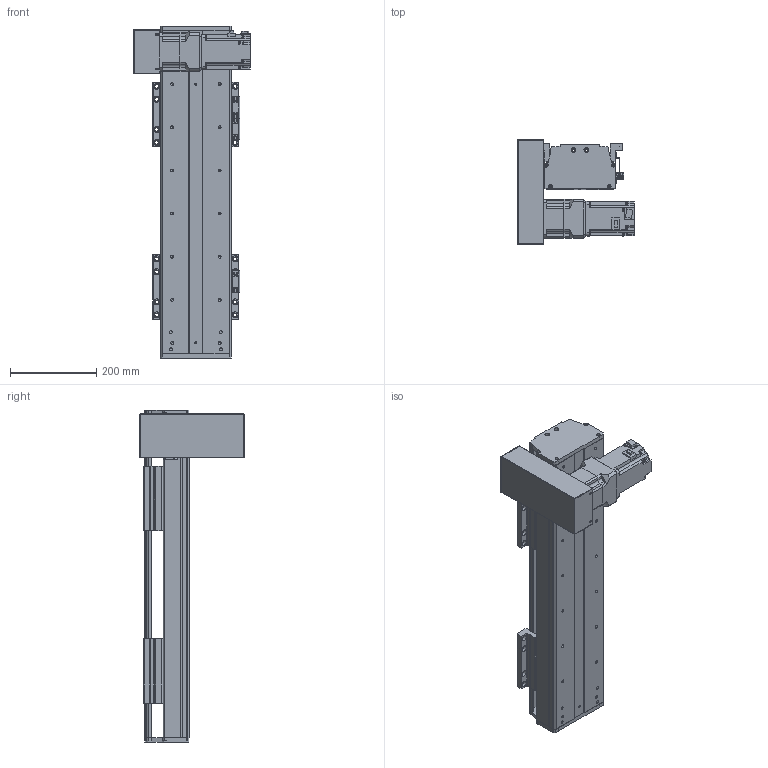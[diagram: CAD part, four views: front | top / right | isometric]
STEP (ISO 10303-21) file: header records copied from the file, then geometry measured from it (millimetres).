
FILE_DESCRIPTION(/* description */ (''),/* implementation_level */ '2;1');
FILE_NAME(/* name */ 'C:\Users\PC\Desktop\3D도면\STEP\DSB165-DL7G-W0400-R.stp',/* time_stamp */ '2018-06-25T15:42:55+09:00',/* author */ ('PC'),/* organization */ (''),/* preprocessor_version */ 'ST-DEVELOPER v16.5',/* originating_system */ 'Autodesk Inventor 2017',/* authorisation */ '');
FILE_SCHEMA (('AUTOMOTIVE_DESIGN { 1 0 10303 214 3 1 1 }'));
Length unit declared in the file: millimetre
Products named in the file (12): DSB165-L; DSR165-BASE_S; hg-kr73_; ab0901-p0401300102; 11-DBS165 BELT COVER; DBS165-COVER; DBS165-COVER_1; DBS165-UP COVER; DBS165-TABLE(MSA20S); DSR126-SENSOR DOG; SENSOR BRACKET(EE-SX674A); pm-y65_step
Assembly tree (16 placements, depth 2):
  DSB165-L
    DSR165-BASE_S
    hg-kr73_
    ab0901-p0401300102
    11-DBS165 BELT COVER
    DBS165-COVER
    DBS165-COVER_1
    DBS165-UP COVER
    DBS165-TABLE(MSA20S)  x2
    DSR126-SENSOR DOG
    pm-y65_step  x3
    SENSOR BRACKET(EE-SX674A)  x3
Bounding box: 270 x 242 x 770 mm (x, y, z)
Volume: 6126399.8 mm3; surface area: 1402159 mm2
Topology: 17 solids, 22 shells, 1643 faces, 4417 edges, 2918 vertices
Faces by surface type: plane 926, cylinder 607, cone 98, sphere 8, torus 4
Full cylindrical faces by diameter (mm): 2.459 x20, 3.5 x6, 4.134 x38, 4.5 x18, 5 x27, 5.5 x36, 5.9 x4, 6 x8, 6.6 x14, 6.647 x30, 6.8 x1, 7 x4, 7.6 x4, 8 x1, 8.4 x1, 8.5 x24, 8.7 x1, 9.5 x32, 11 x6, 14 x16, 19 x1, 22 x1, 24 x1, 25 x1, 28 x1, 67 x1, 70 x2, 80 x1
Entity records: 34989 total; most frequent: DIRECTION 6172, CARTESIAN_POINT 6007, ORIENTED_EDGE 5486, EDGE_CURVE 2748, AXIS2_PLACEMENT_3D 2256, VERTEX_POINT 1953, EDGE_LOOP 1683, LINE 1660
